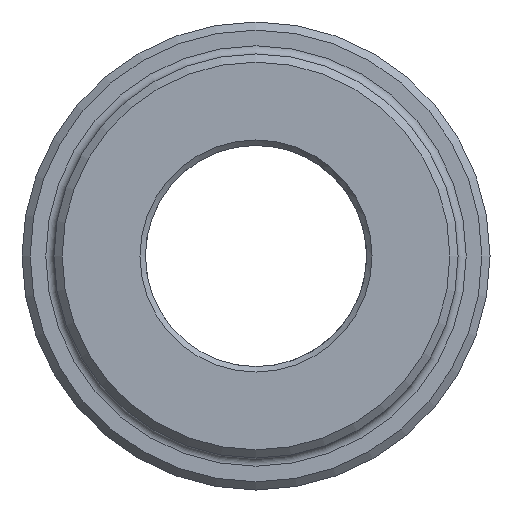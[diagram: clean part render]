
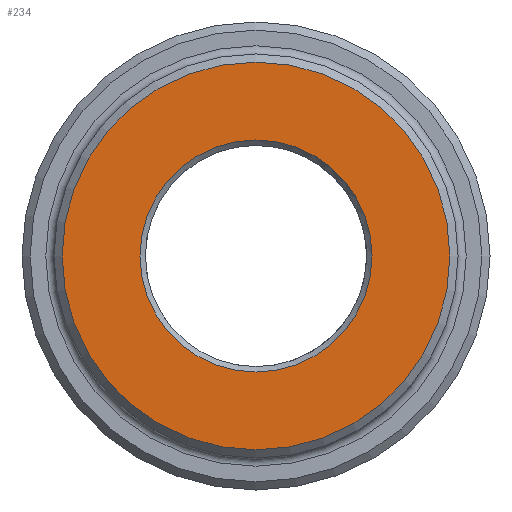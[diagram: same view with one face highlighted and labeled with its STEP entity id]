
A CAD part, left-side view. The second image highlights one B-rep face of the part: STEP entity #234.
In plain terms, the highlighted planar face has unit normal (-1, 0, 0).
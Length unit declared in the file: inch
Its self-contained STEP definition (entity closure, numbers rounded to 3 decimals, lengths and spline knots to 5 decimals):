
#28 = DIRECTION ( 'NONE',  ( 1., 0., 0. ) ) ;
#49 = DIRECTION ( 'NONE',  ( -1., 0., 0. ) ) ;
#126 = ORIENTED_EDGE ( 'NONE', *, *, #1849, .T. ) ;
#156 = CARTESIAN_POINT ( 'NONE',  ( 0., 0., 0. ) ) ;
#158 = VERTEX_POINT ( 'NONE', #1856 ) ;
#175 = ORIENTED_EDGE ( 'NONE', *, *, #825, .T. ) ;
#211 = AXIS2_PLACEMENT_3D ( 'NONE', #1612, #831, #527 ) ;
#221 = FACE_OUTER_BOUND ( 'NONE', #1868, .T. ) ;
#234 = ADVANCED_FACE ( 'NONE', ( #553, #221 ), #436, .F. ) ;
#329 = CARTESIAN_POINT ( 'NONE',  ( 0., 0., 0. ) ) ;
#436 = PLANE ( 'NONE',  #1031 ) ;
#522 = CIRCLE ( 'NONE', #1637, 1.425 ) ;
#527 = DIRECTION ( 'NONE',  ( 0., 0., -1. ) ) ;
#553 = FACE_BOUND ( 'NONE', #1378, .T. ) ;
#825 = EDGE_CURVE ( 'NONE', #158, #158, #1077, .T. ) ;
#831 = DIRECTION ( 'NONE',  ( 1., 0., 0. ) ) ;
#928 = CARTESIAN_POINT ( 'NONE',  ( 0., 0., -1.425 ) ) ;
#1031 = AXIS2_PLACEMENT_3D ( 'NONE', #329, #28, #1091 ) ;
#1077 = CIRCLE ( 'NONE', #211, 0.85275 ) ;
#1091 = DIRECTION ( 'NONE',  ( 0., 0., -1. ) ) ;
#1144 = DIRECTION ( 'NONE',  ( 0., 0., -1. ) ) ;
#1378 = EDGE_LOOP ( 'NONE', ( #175 ) ) ;
#1612 = CARTESIAN_POINT ( 'NONE',  ( 0., 0., 0. ) ) ;
#1637 = AXIS2_PLACEMENT_3D ( 'NONE', #156, #49, #1144 ) ;
#1716 = VERTEX_POINT ( 'NONE', #928 ) ;
#1849 = EDGE_CURVE ( 'NONE', #1716, #1716, #522, .T. ) ;
#1856 = CARTESIAN_POINT ( 'NONE',  ( 0., 0., -0.85275 ) ) ;
#1868 = EDGE_LOOP ( 'NONE', ( #126 ) ) ;
